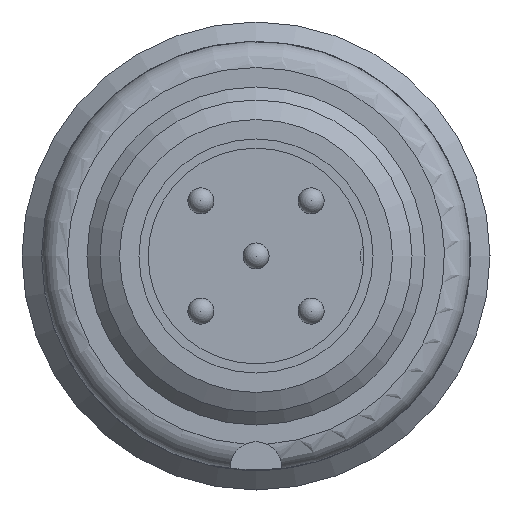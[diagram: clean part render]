
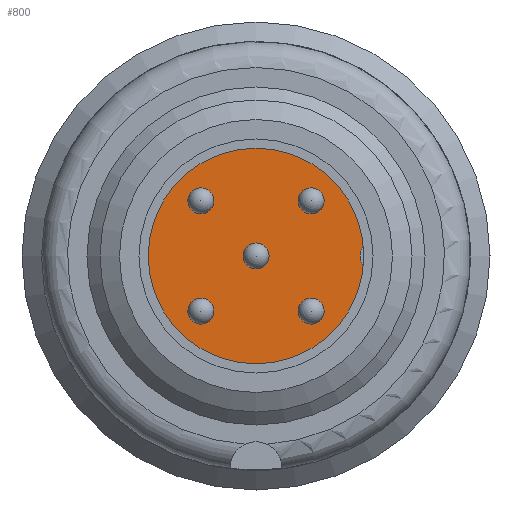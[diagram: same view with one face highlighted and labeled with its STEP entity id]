
A CAD part, left-side view. The second image highlights one B-rep face of the part: STEP entity #800.
In plain terms, the highlighted planar face has unit normal (-1, 0, 0).
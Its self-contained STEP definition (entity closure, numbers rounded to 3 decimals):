
#100=PLANE('',#912);
#185=FACE_BOUND('',#325,.T.);
#186=FACE_BOUND('',#326,.T.);
#187=FACE_BOUND('',#327,.T.);
#188=FACE_BOUND('',#328,.T.);
#189=FACE_BOUND('',#329,.T.);
#248=FACE_OUTER_BOUND('',#324,.T.);
#324=EDGE_LOOP('',(#716,#717));
#325=EDGE_LOOP('',(#718));
#326=EDGE_LOOP('',(#719));
#327=EDGE_LOOP('',(#720));
#328=EDGE_LOOP('',(#721));
#329=EDGE_LOOP('',(#722));
#382=CIRCLE('',#880,0.5);
#385=CIRCLE('',#885,4.5);
#387=CIRCLE('',#889,0.5);
#389=CIRCLE('',#893,0.5);
#391=CIRCLE('',#897,0.5);
#393=CIRCLE('',#901,0.5);
#395=CIRCLE('',#905,0.5);
#453=VERTEX_POINT('',#2917);
#455=VERTEX_POINT('',#2920);
#458=VERTEX_POINT('',#2933);
#460=VERTEX_POINT('',#2939);
#462=VERTEX_POINT('',#2945);
#464=VERTEX_POINT('',#2951);
#466=VERTEX_POINT('',#2957);
#542=EDGE_CURVE('',#455,#453,#382,.T.);
#546=EDGE_CURVE('',#455,#453,#385,.T.);
#548=EDGE_CURVE('',#458,#458,#387,.T.);
#550=EDGE_CURVE('',#460,#460,#389,.T.);
#552=EDGE_CURVE('',#462,#462,#391,.T.);
#554=EDGE_CURVE('',#464,#464,#393,.T.);
#556=EDGE_CURVE('',#466,#466,#395,.T.);
#716=ORIENTED_EDGE('',*,*,#542,.T.);
#717=ORIENTED_EDGE('',*,*,#546,.F.);
#718=ORIENTED_EDGE('',*,*,#554,.T.);
#719=ORIENTED_EDGE('',*,*,#556,.T.);
#720=ORIENTED_EDGE('',*,*,#552,.T.);
#721=ORIENTED_EDGE('',*,*,#550,.T.);
#722=ORIENTED_EDGE('',*,*,#548,.T.);
#800=ADVANCED_FACE('',(#248,#185,#186,#187,#188,#189),#100,.T.);
#880=AXIS2_PLACEMENT_3D('',#2921,#1078,#1079);
#885=AXIS2_PLACEMENT_3D('',#2928,#1089,#1090);
#889=AXIS2_PLACEMENT_3D('',#2934,#1097,#1098);
#893=AXIS2_PLACEMENT_3D('',#2940,#1105,#1106);
#897=AXIS2_PLACEMENT_3D('',#2946,#1113,#1114);
#901=AXIS2_PLACEMENT_3D('',#2952,#1121,#1122);
#905=AXIS2_PLACEMENT_3D('',#2958,#1129,#1130);
#912=AXIS2_PLACEMENT_3D('',#2967,#1143,#1144);
#1078=DIRECTION('center_axis',(1.,0.,0.));
#1079=DIRECTION('ref_axis',(0.,0.,-1.));
#1089=DIRECTION('center_axis',(1.,0.,0.));
#1090=DIRECTION('ref_axis',(0.,1.,0.));
#1097=DIRECTION('center_axis',(1.,0.,0.));
#1098=DIRECTION('ref_axis',(0.,0.,-1.));
#1105=DIRECTION('center_axis',(1.,0.,0.));
#1106=DIRECTION('ref_axis',(0.,0.,-1.));
#1113=DIRECTION('center_axis',(1.,0.,0.));
#1114=DIRECTION('ref_axis',(0.,0.,-1.));
#1121=DIRECTION('center_axis',(1.,0.,0.));
#1122=DIRECTION('ref_axis',(0.,0.,-1.));
#1129=DIRECTION('center_axis',(1.,0.,0.));
#1130=DIRECTION('ref_axis',(0.,0.,-1.));
#1143=DIRECTION('center_axis',(-1.,0.,0.));
#1144=DIRECTION('ref_axis',(0.,0.,1.));
#2917=CARTESIAN_POINT('',(-43.018,-4.472,0.499));
#2920=CARTESIAN_POINT('',(-43.018,-4.472,-0.499));
#2921=CARTESIAN_POINT('Origin',(-43.018,-4.5,0.));
#2928=CARTESIAN_POINT('Origin',(-43.018,0.,
0.));
#2933=CARTESIAN_POINT('',(-43.018,0.,0.5));
#2934=CARTESIAN_POINT('Origin',(-43.018,0.,
0.));
#2939=CARTESIAN_POINT('',(-43.018,2.121,-1.621));
#2940=CARTESIAN_POINT('Origin',(-43.018,2.121,-2.121));
#2945=CARTESIAN_POINT('',(-43.018,-2.121,2.621));
#2946=CARTESIAN_POINT('Origin',(-43.018,-2.121,2.121));
#2951=CARTESIAN_POINT('',(-43.018,-2.121,-1.621));
#2952=CARTESIAN_POINT('Origin',(-43.018,-2.121,-2.121));
#2957=CARTESIAN_POINT('',(-43.018,2.121,2.621));
#2958=CARTESIAN_POINT('Origin',(-43.018,2.121,2.121));
#2967=CARTESIAN_POINT('Origin',(-43.018,2.25,0.));
